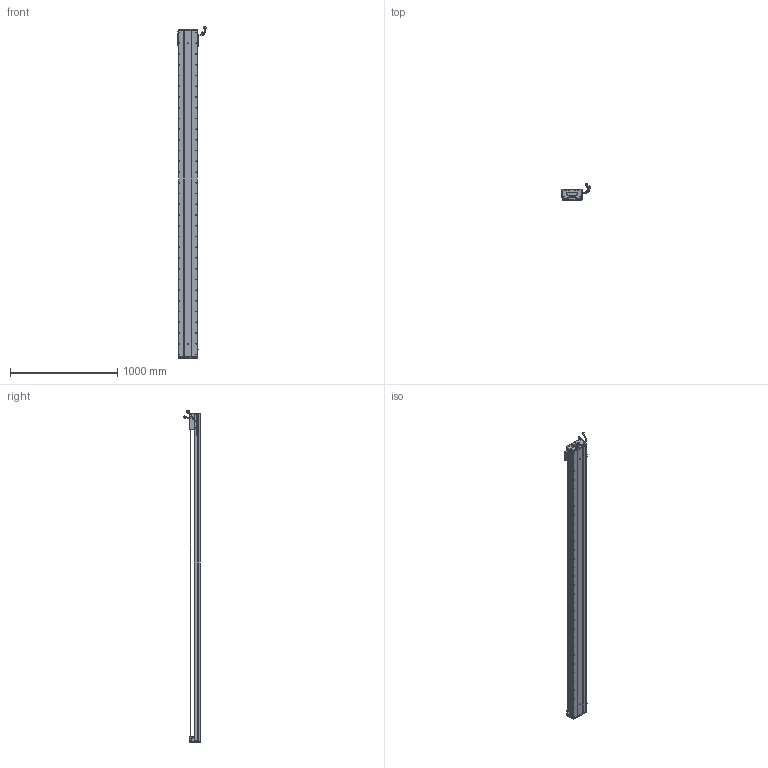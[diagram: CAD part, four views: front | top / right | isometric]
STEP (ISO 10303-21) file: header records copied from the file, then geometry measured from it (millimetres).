
FILE_DESCRIPTION (( 'STEP AP203' ), '1' );
FILE_NAME ('Z1-RY170D-1-L500-B-K.SLDASM_2850.step', '2021-05-17T08:57:04', ( '盈信电脑' ), ( '东莞市道滘镇水果街19号' ), 'SwSTEP 2.0', 'SolidWorks 2016', '' );
FILE_SCHEMA (( 'CONFIG_CONTROL_DESIGN' ));
Length unit declared in the file: millimetre
Products named in the file (36): SEAL; SCREW-M1.7-1; LABEL-Part-1; Z1-RY170-L500詩湍145mm遵_2850; 170-Z-臏賑輸盄裔(21遴); PSLH080_PSLF2; SEAL-Part-1; Z-RY170詩湍奻揤裔; PBU_SHEET; HARNESS; Z1-RY170D-1-L500-B-K.SLDASM_2850; Z1-RY170-L500耀郪菁釱_2850; RY170直线电机感应器672光电感应片; SHIELDPLATE; 覜茼ん672; HARNESS-Part-1; SCALE; HARNESS-Part-2; 榋妏寠巭燃_暯_M2_2; COVER; Z1-RY170臏賑輸(21遴); SCALE-Part-1; SCREW-M1.6-2; COVER-Part-1; SCREW-M1.7; HOLDER0; LABEL; 140蚥薯蝶輸; SCREW-M1.6; Z-RY170詩湍狟揤裔; SCREW-M1.6-1; 140雄赽晤鎢ん堤盄; SCREW-M1.6-3; SCALE-Part-2; Z-170詩湍傷裔啣; 080黍杅芛假蚾釱21遴
Assembly tree (41 placements, depth 4):
  Z1-RY170D-1-L500-B-K.SLDASM_2850
    Z1-RY170-L500耀郪菁釱_2850
    RY170直线电机感应器672光电感应片
    Z1-RY170臏賑輸(21遴)
    覜茼ん672  x3
    PSLH080_PSLF2
      SCALE
        SCALE-Part-1
        SCALE-Part-2
      HARNESS
        HARNESS-Part-1
        HARNESS-Part-2
      LABEL
        LABEL-Part-1
      COVER
        COVER-Part-1
      SEAL
        SEAL-Part-1
      榋妏寠巭燃_暯_M2_2
      SHIELDPLATE
      SCREW-M1.7
      SCREW-M1.7-1
      PBU_SHEET
      SCREW-M1.6
      SCREW-M1.6-1
      SCREW-M1.6-2
      SCREW-M1.6-3
      HOLDER0
    080黍杅芛假蚾釱21遴
    Z1-RY170-L500詩湍145mm遵_2850
    Z-170詩湍傷裔啣  x2
    Z-RY170詩湍奻揤裔  x2
    Z-RY170詩湍狟揤裔  x2
    140蚥薯蝶輸  x2
    170-Z-臏賑輸盄裔(21遴)
    140雄赽晤鎢ん堤盄
Bounding box: 275.29 x 158.11 x 3093.72 mm (x, y, z)
Volume: 14598307.3 mm3; surface area: 3657545 mm2
Topology: 36 solids, 36 shells, 4308 faces, 12083 edges, 7545 vertices
Faces by surface type: cylinder 2226, plane 1348, cone 612, torus 69, bspline 53
Entity records: 138399 total; most frequent: CARTESIAN_POINT 39918, ORIENTED_EDGE 20514, DIRECTION 18729, EDGE_CURVE 10257, AXIS2_PLACEMENT_3D 6894, VERTEX_POINT 6663, LINE 4941, VECTOR 4941
